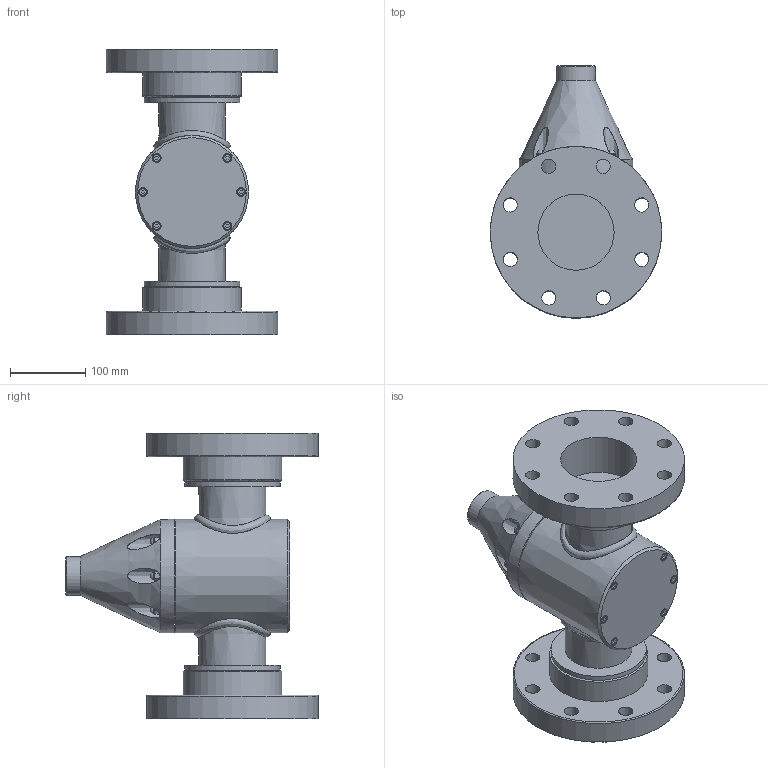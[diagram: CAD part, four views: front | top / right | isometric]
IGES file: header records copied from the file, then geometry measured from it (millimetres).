
Start section: SolidWorks IGES file using analytic representation for surfaces
Global section: file name: F:\Griffco-Valve\Griffco_current-projects\GV_web-files_2015\G Series Flanged\GPR4000-FLNG.IGS; native system: SolidWorks 2014; preprocessor: SolidWorks 2014; author: Dan; date: 160211.190527; units: inch
Bounding box: 228.6 x 336.55 x 381 mm (x, y, z)
Surface area: 480775.4 mm2 (no closed solid volume)
Topology: 0 solids, 0 shells, 223 faces, 870 edges, 789 vertices
Faces by surface type: bspline 137, revolution 86
